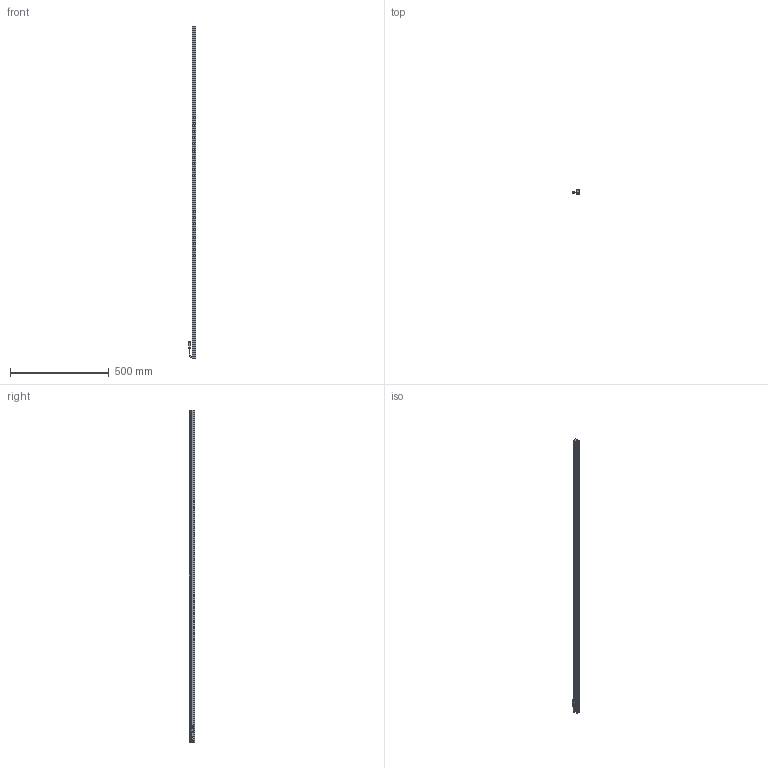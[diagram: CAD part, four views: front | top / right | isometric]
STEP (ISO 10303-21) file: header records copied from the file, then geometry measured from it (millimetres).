
FILE_DESCRIPTION (( 'STEP AP203' ), '1' );
FILE_NAME ('CK-BL167718.STEP', '2025-12-27T02:19:57', ( '' ), ( '' ), 'SwSTEP 2.0', 'SolidWorks 2022', '' );
FILE_SCHEMA (( 'CONFIG_CONTROL_DESIGN' ));
Length unit declared in the file: millimetre
Products named in the file (6): CK-BL167718; CK-BL167718-002A; 十字沉头螺丝 M2x10; CK-BL167718-003A; CK-BL167718-001A; 光源线-01
Assembly tree (9 placements, depth 2):
  CK-BL167718
    CK-BL167718-001A
    CK-BL167718-002A  x2
    CK-BL167718-003A
    光源线-01
    十字沉头螺丝 M2x10  x4
Bounding box: 37.34 x 27 x 1677 mm (x, y, z)
Volume: 367614.4 mm3; surface area: 363022.8 mm2
Topology: 11 solids, 11 shells, 474 faces, 1231 edges, 780 vertices
Faces by surface type: plane 271, cylinder 149, cone 34, bspline 20
Entity records: 12442 total; most frequent: CARTESIAN_POINT 2514, ORIENTED_EDGE 1936, DIRECTION 1916, EDGE_CURVE 968, VECTOR 668, LINE 668, VERTEX_POINT 626, AXIS2_PLACEMENT_3D 624
